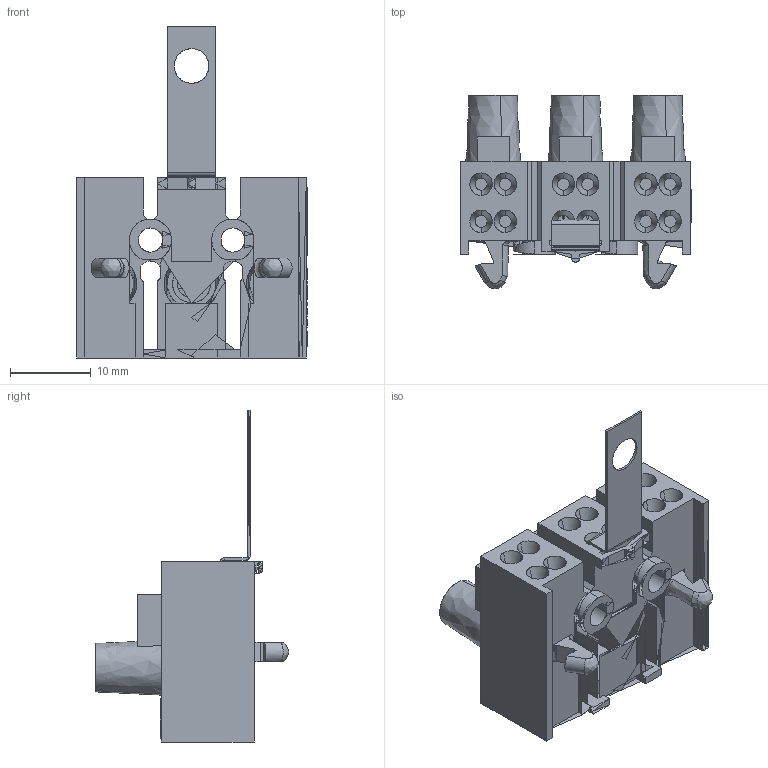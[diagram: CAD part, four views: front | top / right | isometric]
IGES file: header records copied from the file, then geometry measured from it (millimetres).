
Global section: file name: C:\Programme\core_technologie\in\00WYK02Y05.igs; native system: CT CoreTechnologie 3D Evolution; preprocessor: 2006; author: assmuth; date: 100304.140751; units: millimetre
Bounding box: 28.5 x 24 x 41.1 mm (x, y, z)
Surface area: 4939.8 mm2 (no closed solid volume)
Topology: 0 solids, 0 shells, 445 faces, 2134 edges, 2075 vertices
Faces by surface type: bspline 445
